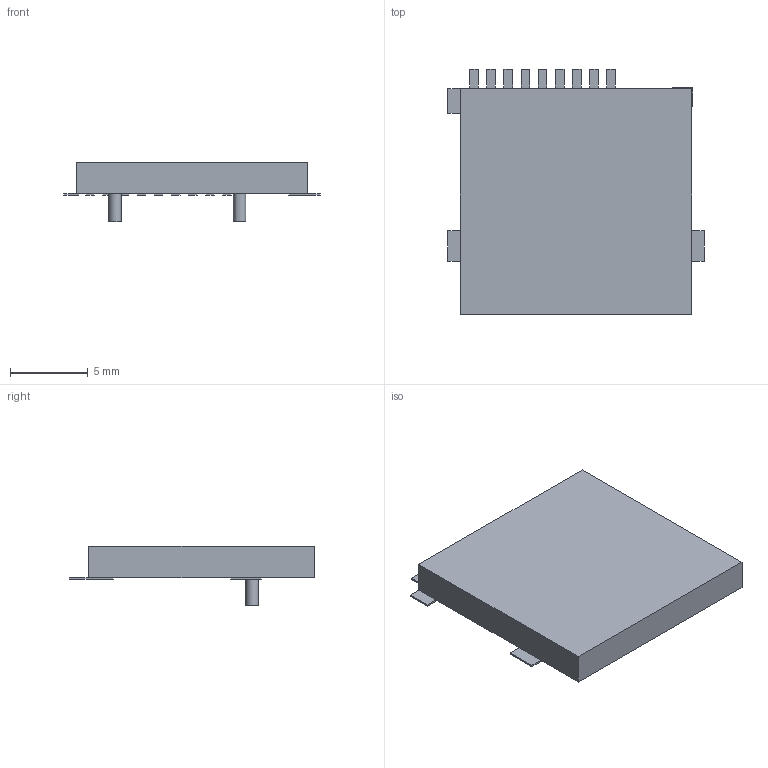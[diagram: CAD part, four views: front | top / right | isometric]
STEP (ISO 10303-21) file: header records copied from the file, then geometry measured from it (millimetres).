
FILE_DESCRIPTION(('FreeCAD Model'),'2;1');
FILE_NAME('/var/www/3D/0T/18921568.1.6.stp','2023-12-13T05:24:09',( 'Author'),(''),'Open CASCADE STEP processor 6.9','FreeCAD','Unknown' );
FILE_SCHEMA(('AUTOMOTIVE_DESIGN { 1 0 10303 214 1 1 1 1 }'));
Length unit declared in the file: millimetre
Products named in the file (4): ASSEMBLY; Body; Pins; Lugs
Assembly tree (3 placements, depth 2):
  ASSEMBLY
    Body
    Pins
    Lugs
Bounding box: 16.46 x 15.73 x 3.8 mm (x, y, z)
Volume: 433.9 mm3; surface area: 593.3 mm2
Topology: 16 solids, 16 shells, 90 faces, 174 edges, 116 vertices
Faces by surface type: plane 88, cylinder 2
Full cylindrical faces by diameter (mm): 0.8 x2
Entity records: 4687 total; most frequent: CARTESIAN_POINT 732, DIRECTION 714, LINE 514, VECTOR 514, ORIENTED_EDGE 348, PCURVE 348, DEFINITIONAL_REPRESENTATION 348, EDGE_CURVE 174
